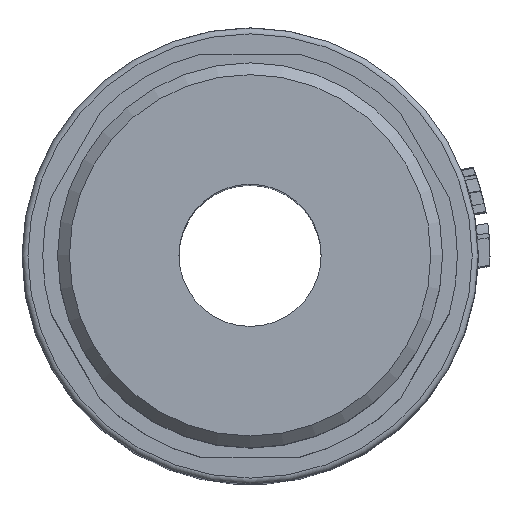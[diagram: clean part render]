
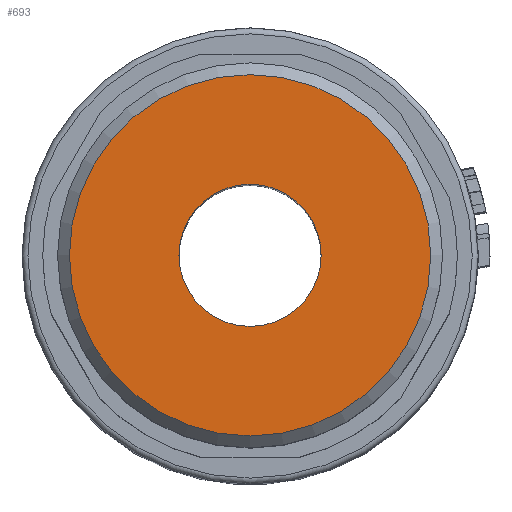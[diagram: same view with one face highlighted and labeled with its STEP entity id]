
A CAD part, top view. The second image highlights one B-rep face of the part: STEP entity #693.
In plain terms, the highlighted planar face has unit normal (0, 0, 1).
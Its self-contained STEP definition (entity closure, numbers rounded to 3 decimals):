
#144=FACE_BOUND('',#1541,.T.);
#145=FACE_BOUND('',#1542,.T.);
#272=CIRCLE('',#6541,6.);
#273=CIRCLE('',#6542,15.25);
#407=PLANE('',#6543);
#693=ADVANCED_FACE('',(#144,#145),#407,.F.);
#1541=EDGE_LOOP('',(#3478));
#1542=EDGE_LOOP('',(#3479));
#3478=ORIENTED_EDGE('',*,*,#5301,.T.);
#3479=ORIENTED_EDGE('',*,*,#5302,.F.);
#4454=VERTEX_POINT('',#14019);
#4455=VERTEX_POINT('',#14021);
#5301=EDGE_CURVE('',#4454,#4454,#272,.T.);
#5302=EDGE_CURVE('',#4455,#4455,#273,.T.);
#6541=AXIS2_PLACEMENT_3D('',#14018,#7501,#7502);
#6542=AXIS2_PLACEMENT_3D('',#14020,#7503,#7504);
#6543=AXIS2_PLACEMENT_3D('',#14022,#7505,#7506);
#7501=DIRECTION('',(0.,0.,-1.));
#7502=DIRECTION('',(1.,0.,0.));
#7503=DIRECTION('',(0.,0.,-1.));
#7504=DIRECTION('',(-1.,0.,0.));
#7505=DIRECTION('',(0.,0.,-1.));
#7506=DIRECTION('',(-1.,0.,0.));
#14018=CARTESIAN_POINT('',(0.,0.,76.));
#14019=CARTESIAN_POINT('',(6.,0.,76.));
#14020=CARTESIAN_POINT('',(0.,0.,76.));
#14021=CARTESIAN_POINT('',(-15.25,0.,76.));
#14022=CARTESIAN_POINT('',(0.,0.,76.));
